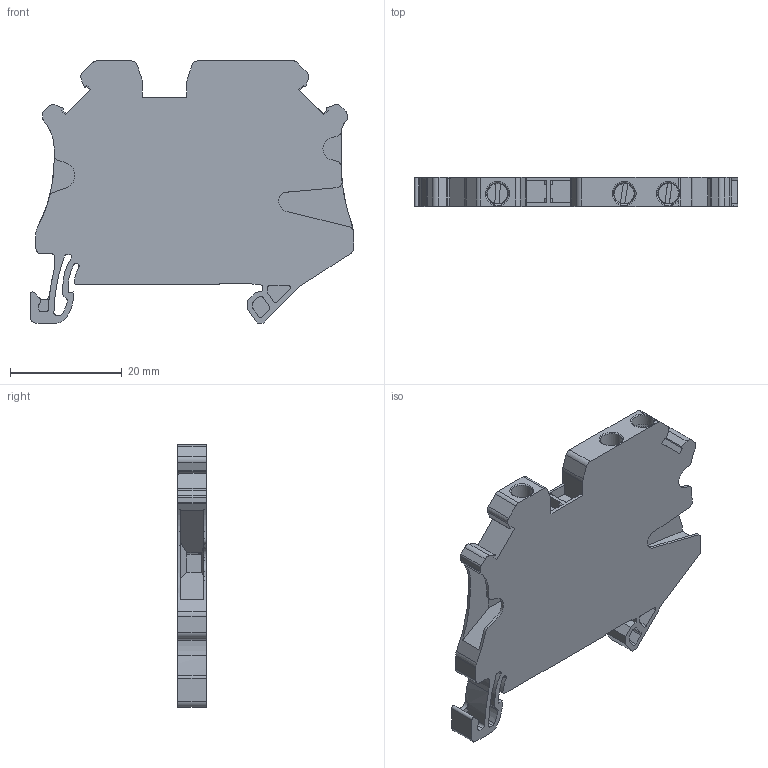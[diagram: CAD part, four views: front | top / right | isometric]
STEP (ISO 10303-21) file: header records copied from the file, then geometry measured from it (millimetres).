
FILE_DESCRIPTION( ('This file contains a STEP AP42 implementation' ,'as created by ZW3D STEP Interface translator.') ,'2;1' );
FILE_NAME( 'RUT2.5-TWIN傷赽-耀倰.stp' ,'231227.161413', (''), ('ZWCAD Software Co.'), 'Version 1.0', 'ZW3D to STEP translator', '' );
FILE_SCHEMA(('AUTOMOTIVE_DESIGN { 1 0 10303 214 1 1 1 1 }'));
Length unit declared in the file: millimetre
Products named in the file (2): 0; RUT2.5-TWIN   傖こ芞5.3
Bounding box: 57.8 x 5.15 x 46.85 mm (x, y, z)
Volume: 8877.2 mm3; surface area: 6394 mm2
Topology: 1 solids, 1 shells, 315 faces, 910 edges, 604 vertices
Faces by surface type: plane 188, cylinder 100, torus 15, bspline 12
Entity records: 11465 total; most frequent: CARTESIAN_POINT 2718, ORIENTED_EDGE 1828, DIRECTION 1720, EDGE_CURVE 910, VERTEX_POINT 604, VECTOR 592, LINE 592, AXIS2_PLACEMENT_3D 564
